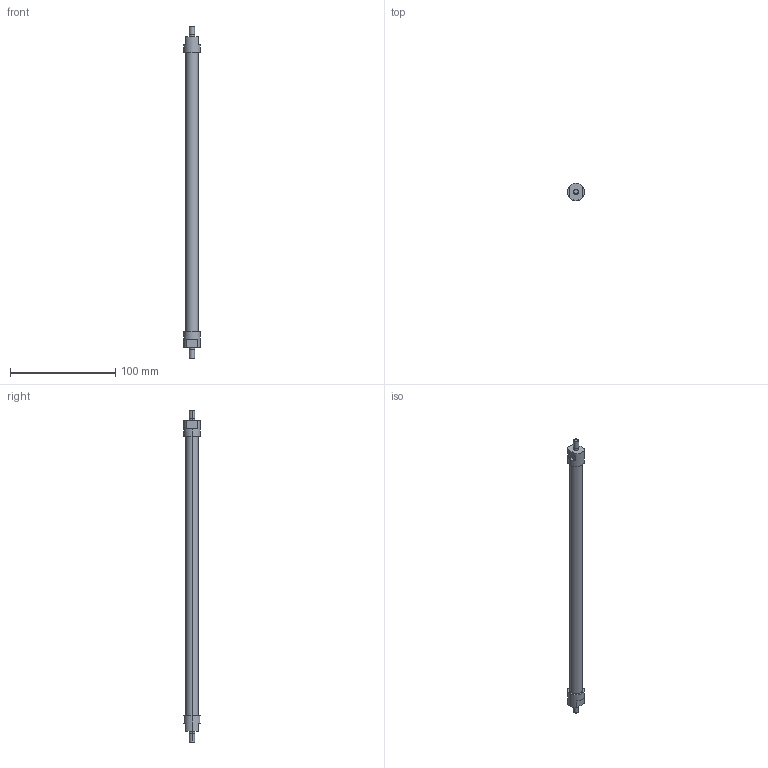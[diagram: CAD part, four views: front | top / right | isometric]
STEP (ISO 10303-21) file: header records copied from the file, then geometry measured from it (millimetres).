
FILE_DESCRIPTION(('STEP AP214'),'1');
FILE_NAME('ETT-R025N305.stp','2015-02-04T08:19:29',(' '),(' '),'Spatial InterOp 3D',' ',' ');
FILE_SCHEMA(('automotive_design'));
Length unit declared in the file: metre
Products named in the file (3): 1; 2; 3
Bounding box: 16 x 16 x 316 mm (x, y, z)
Volume: 36044.3 mm3; surface area: 12617 mm2
Topology: 1 solids, 7 shells, 30 faces, 81 edges, 63 vertices
Faces by surface type: plane 16, cylinder 14
Entity records: 1295 total; most frequent: DIRECTION 194, CARTESIAN_POINT 177, ORIENTED_EDGE 138, EDGE_CURVE 81, AXIS2_PLACEMENT_3D 80, VERTEX_POINT 63, CIRCLE 47, EDGE_LOOP 36
